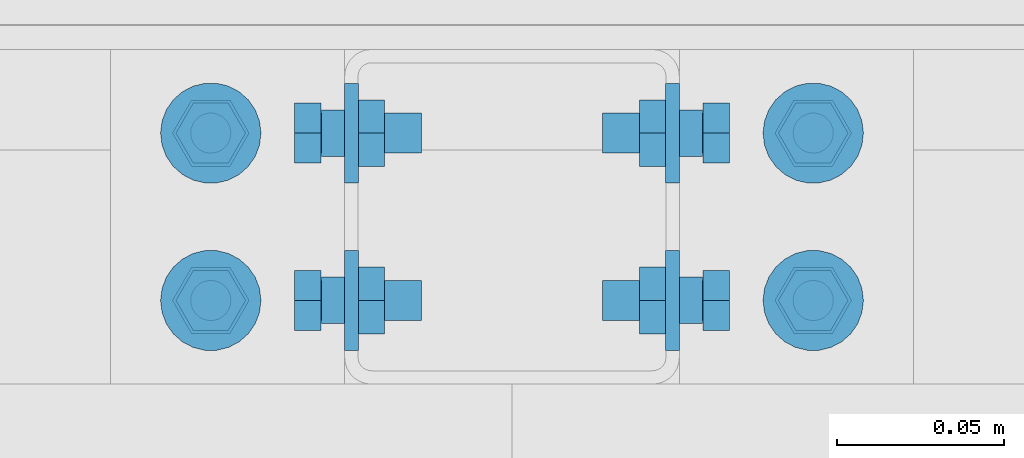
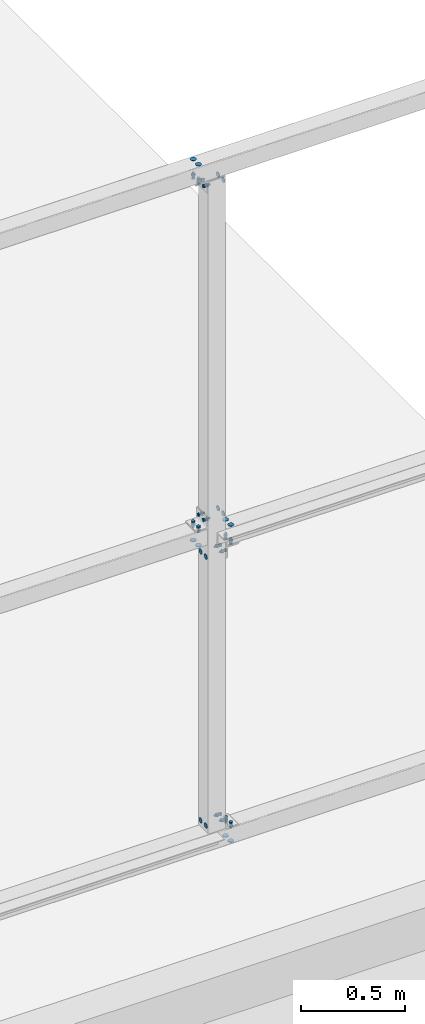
# One storey, part 313 of 362: 16 mechanical fasteners.
"""IFC2X3 building model written with IfcOpenShell, lengths in millimetres."""

from ifc_helpers import new_model, si_unit, frame, origin_with_axes, origin_2d_with_axis, place, context, subcontext, project, spatial, polyline, circle, outline, extrude, source, transform, mapped, material, type_object, element, save


model = new_model("IFC2X3")

# Units and contexts
model_context = context("Model", 3, precision=1e-05, world=origin_with_axes())
body_context = subcontext(model_context, "Body", "Model", "MODEL_VIEW")
ifc_project = project(units=[si_unit("LENGTHUNIT", "METRE", prefix="MILLI"), si_unit("AREAUNIT", "SQUARE_METRE"), si_unit("VOLUMEUNIT", "CUBIC_METRE"), si_unit("MASSUNIT", "GRAM", prefix="KILO"), si_unit("TIMEUNIT", "SECOND"), si_unit("PLANEANGLEUNIT", "RADIAN"), si_unit("SOLIDANGLEUNIT", "STERADIAN"), si_unit("THERMODYNAMICTEMPERATUREUNIT", "DEGREE_CELSIUS"), si_unit("LUMINOUSINTENSITYUNIT", "LUMEN")], contexts=[model_context])

# Site, building, storey
site_placement = place(None, origin_with_axes())
site = spatial("IfcSite", under=ifc_project, at=site_placement, Name="Undefined", CompositionType="ELEMENT")
building_placement = place(site_placement, origin_with_axes())
building = spatial("IfcBuilding", under=site, at=building_placement, Name="Undefined", CompositionType="ELEMENT")
storey_placement = place(building_placement, origin_with_axes())
storey = spatial("IfcBuildingStorey", under=building, at=storey_placement, Name="Undefined", CompositionType="ELEMENT", Elevation=0.0)

# Mechanical fasteners
ifc_material_1 = material(Name="6.8")
mechanical_fastener_type = type_object("IfcMechanicalFastenerType", Name="Bolt assembly")
shared_shape_1 = source(origin_with_axes(), body_context, "Body", "SweptSolid", [
    extrude(circle(Radius=15.0, at=origin_2d_with_axis()), frame((0.0, 0.0, 0.0), z_axis=(0.0, 1.0, 0.0), x_axis=(1.0, 0.0, 0.0)), (0.0, 0.0, 1.0), 4.1),
])
mechanical_fastener_1_placement = place(storey_placement, frame((36395.0025831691, -130.000008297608, 1140.0), z_axis=(0.0, -1.0, 0.0), x_axis=(0.0, 0.0, -1.0)))
element("IfcMechanicalFastener", 1, at=mechanical_fastener_1_placement, inside=storey, type_object=mechanical_fastener_type, material=ifc_material_1, Name="Bolt assembly", NominalDiameter=30.0, NominalLength=4.0, context=body_context, shape_type="MappedRepresentation", body=[
    mapped(shared_shape_1, transform((0.0, 0.0, 25.0))),
    mapped(shared_shape_1, transform((0.0, 0.0, -25.0))),
])
for number, where, z_axis, x_axis, name in (
    (2, (36395.0025836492, -130.000008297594, 2720.0), (0.0, 1.0, 0.0), (0.0, 0.0, 1.0), "Bolt assembly"),
    (3, (36495.0025832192, -130.000008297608, 2940.0), (0.0, 1.0, 0.0), (0.0, 0.0, -1.0), "Bolt assembly"),
):
    element("IfcMechanicalFastener", number, at=place(storey_placement, frame(where, z_axis=z_axis, x_axis=x_axis)), inside=storey, type_object=mechanical_fastener_type, material=ifc_material_1, Name=name, NominalDiameter=30.0, NominalLength=4.0, context=body_context, shape_type="MappedRepresentation", body=[
        mapped(shared_shape_1, transform((0.0, 0.0, -25.0))),
        mapped(shared_shape_1, transform((0.0, 0.0, 25.0))),
    ])
mechanical_fastener_2_placement = place(storey_placement, frame((36495.0025826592, -130.000008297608, 4900.0), z_axis=(0.0, -1.0, 0.0), x_axis=(0.0, 0.0, 1.0)))
element("IfcMechanicalFastener", 4, at=mechanical_fastener_2_placement, inside=storey, type_object=mechanical_fastener_type, material=ifc_material_1, Name="Bolt assembly", NominalDiameter=30.0, NominalLength=4.0, context=body_context, shape_type="MappedRepresentation", body=[
    mapped(shared_shape_1, transform((0.0, 0.0, 25.0))),
    mapped(shared_shape_1, transform((0.0, 0.0, -25.0))),
])
ifc_material_2 = material(Name="8.8-SB-ZINGUE")
shared_shape_2 = source(origin_with_axes(), body_context, "Body", "SweptSolid", [
    extrude(circle(Radius=7.0, at=origin_2d_with_axis()), frame((0.0, -0.101674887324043, 0.0), z_axis=(0.0, 1.0, 0.0), x_axis=(1.0, 0.0, 0.0)), (0.0, 0.0, 1.0), 4.1),
    extrude(circle(Radius=7.0, at=origin_2d_with_axis()), frame((0.0, -6.90167467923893, 0.0), z_axis=(0.0, 1.0, 0.0), x_axis=(1.0, 0.0, 0.0)), (0.0, 0.0, 1.0), 7.0),
    extrude(outline(polyline([(10.39230484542, 0.0), (5.19615242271, 9.00000000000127), (-5.19615242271, 9.00000000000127), (-10.39230484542, 0.0), (-5.19615242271, -9.00000000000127), (5.19615242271, -9.00000000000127), (10.39230484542, 0.0)])), frame((0.0, -14.9216746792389, 0.0), z_axis=(0.0, 1.0, 0.0), x_axis=(1.0, 0.0, 0.0)), (0.0, 0.0, 1.0), 7.92),
    extrude(circle(Radius=6.0, at=origin_2d_with_axis()), frame((0.0, -7.00167467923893, 0.0), z_axis=(0.0, 1.0, 0.0), x_axis=(1.0, 0.0, 0.0)), (0.0, 0.0, 1.0), 30.0),
    extrude(outline(polyline([(11.5008173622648, 0.0), (5.7504086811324, 9.96000000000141), (-5.7504086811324, 9.96000000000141), (-11.5008173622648, 0.0), (-5.7504086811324, -9.96000000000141), (5.7504086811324, -9.96000000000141), (11.5008173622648, 0.0)])), frame((0.0, 3.99832511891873, 0.0), z_axis=(0.0, 1.0, 0.0), x_axis=(1.0, 0.0, 0.0)), (0.0, 0.0, 1.0), 7.92),
])
mechanical_fastener_3_placement = place(storey_placement, frame((36495.0009082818, -130.000006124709, 1140.00000004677), z_axis=(0.0, 1.0, 0.0), x_axis=(-5.58310001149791e-05, -3.00000033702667e-09, -0.99999999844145)))
element("IfcMechanicalFastener", 5, at=mechanical_fastener_3_placement, inside=storey, type_object=mechanical_fastener_type, material=ifc_material_2, Name="Bolt assembly", NominalDiameter=12.0, NominalLength=30.0, context=body_context, shape_type="MappedRepresentation", body=[
    mapped(shared_shape_2, transform((0.0, 0.0, 25.0))),
    mapped(shared_shape_2, transform((0.0, 0.0, -25.0))),
])
for number, where, z_axis, x_axis, name in (
    (6, (36495.0009087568, -130.000006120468, 2719.99999995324), (0.0, -1.0, 0.0), (-5.58310001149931e-05, -3.00000033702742e-09, 0.99999999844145), "Bolt assembly"),
    (7, (36395.0042581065, -130.000006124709, 2940.00000004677), (0.0, -1.0, 0.0), (5.58310000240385e-05, -3.00000033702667e-09, -0.99999999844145), "Bolt assembly"),
):
    element("IfcMechanicalFastener", number, at=place(storey_placement, frame(where, z_axis=z_axis, x_axis=x_axis)), inside=storey, type_object=mechanical_fastener_type, material=ifc_material_2, Name=name, NominalDiameter=12.0, NominalLength=30.0, context=body_context, shape_type="MappedRepresentation", body=[
        mapped(shared_shape_2, transform((0.0, 0.0, -25.0))),
        mapped(shared_shape_2, transform((0.0, 0.0, 25.0))),
    ])
mechanical_fastener_4_placement = place(storey_placement, frame((36395.0042575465, -130.000006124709, 4899.99999995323), z_axis=(0.0, 1.0, 0.0), x_axis=(5.58310000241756e-05, -2.99999998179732e-09, 0.99999999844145)))
element("IfcMechanicalFastener", 8, at=mechanical_fastener_4_placement, inside=storey, type_object=mechanical_fastener_type, material=ifc_material_2, Name="Bolt assembly", NominalDiameter=12.0, NominalLength=30.0, context=body_context, shape_type="MappedRepresentation", body=[
    mapped(shared_shape_2, transform((0.0, 0.0, 25.0))),
    mapped(shared_shape_2, transform((0.0, 0.0, -25.0))),
])
shared_shape_3 = source(origin_with_axes(), body_context, "Body", "SweptSolid", [
    extrude(circle(Radius=15.0, at=origin_2d_with_axis()), frame((0.0, -3.99999923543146, 0.0), z_axis=(0.0, 1.0, 0.0), x_axis=(1.0, 0.0, 0.0)), (0.0, 0.0, 1.0), 4.1),
])
mechanical_fastener_5_placement = place(storey_placement, frame((36535.0025831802, -130.000008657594, 2860.0), z_axis=(0.0, 1.0, 0.0), x_axis=(-1.0, 0.0, 0.0)))
element("IfcMechanicalFastener", 9, at=mechanical_fastener_5_placement, inside=storey, type_object=mechanical_fastener_type, material=ifc_material_1, Name="Bolt assembly", NominalDiameter=30.0, NominalLength=4.0, context=body_context, shape_type="MappedRepresentation", body=[
    mapped(shared_shape_3, transform((0.0, 0.0, -25.0))),
    mapped(shared_shape_3, transform((0.0, 0.0, 25.0))),
])
mechanical_fastener_6_placement = place(storey_placement, frame((36535.0025827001, -130.000008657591, 1000.0), z_axis=(0.0, -1.0, 0.0), x_axis=(-1.0, 0.0, 0.0)))
element("IfcMechanicalFastener", 10, at=mechanical_fastener_6_placement, inside=storey, type_object=mechanical_fastener_type, material=ifc_material_1, Name="Bolt assembly", NominalDiameter=30.0, NominalLength=4.0, context=body_context, shape_type="MappedRepresentation", body=[
    mapped(shared_shape_3, transform((0.0, 0.0, 25.0))),
    mapped(shared_shape_3, transform((0.0, 0.0, -25.0))),
])
mechanical_fastener_7_placement = place(storey_placement, frame((36355.0025836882, -130.000008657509, 2800.0), z_axis=(0.0, 1.0, 0.0), x_axis=(1.0, 0.0, 0.0)))
element("IfcMechanicalFastener", 11, at=mechanical_fastener_7_placement, inside=storey, type_object=mechanical_fastener_type, material=ifc_material_1, Name="Bolt assembly", NominalDiameter=30.0, NominalLength=4.0, context=body_context, shape_type="MappedRepresentation", body=[
    mapped(shared_shape_3, transform((0.0, 0.0, -25.0))),
    mapped(shared_shape_3, transform((0.0, 0.0, 25.0))),
])
mechanical_fastener_8_placement = place(storey_placement, frame((36355.0025831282, -130.000008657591, 5040.0), z_axis=(0.0, -1.0, 0.0), x_axis=(1.0, 0.0, 0.0)))
element("IfcMechanicalFastener", 12, at=mechanical_fastener_8_placement, inside=storey, type_object=mechanical_fastener_type, material=ifc_material_1, Name="Bolt assembly", NominalDiameter=30.0, NominalLength=4.0, context=body_context, shape_type="MappedRepresentation", body=[
    mapped(shared_shape_3, transform((0.0, 0.0, 25.0))),
    mapped(shared_shape_3, transform((0.0, 0.0, -25.0))),
])
shared_shape_4 = source(origin_with_axes(), body_context, "Body", "SweptSolid", [
    extrude(circle(Radius=7.0, at=origin_2d_with_axis()), frame((0.0, -0.100011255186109, 0.0), z_axis=(0.0, 1.0, 0.0), x_axis=(1.0, 0.0, 0.0)), (0.0, 0.0, 1.0), 4.1),
    extrude(circle(Radius=7.0, at=origin_2d_with_axis()), frame((0.0, -6.9, 0.0), z_axis=(0.0, 1.0, 0.0), x_axis=(1.0, 0.0, 0.0)), (0.0, 0.0, 1.0), 7.0),
    extrude(outline(polyline([(10.39230484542, 0.0), (5.19615242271, 9.00000000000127), (-5.19615242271, 9.00000000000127), (-10.39230484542, 0.0), (-5.19615242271, -9.00000000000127), (5.19615242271, -9.00000000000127), (10.39230484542, 0.0)])), frame((0.0, -14.92, 0.0), z_axis=(0.0, 1.0, 0.0), x_axis=(1.0, 0.0, 0.0)), (0.0, 0.0, 1.0), 7.92),
    extrude(circle(Radius=6.0, at=origin_2d_with_axis()), frame((0.0, -7.0, 0.0), z_axis=(0.0, 1.0, 0.0), x_axis=(1.0, 0.0, 0.0)), (0.0, 0.0, 1.0), 30.0),
    extrude(outline(polyline([(11.5008173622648, 0.0), (5.7504086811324, 9.96000000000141), (-5.7504086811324, 9.96000000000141), (-11.5008173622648, 0.0), (-5.7504086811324, -9.96000000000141), (5.7504086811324, -9.96000000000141), (11.5008173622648, 0.0)])), frame((0.0, 4.00000005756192, 0.0), z_axis=(0.0, 1.0, 0.0), x_axis=(1.0, 0.0, 0.0)), (0.0, 0.0, 1.0), 7.92),
])
mechanical_fastener_9_placement = place(storey_placement, frame((36535.0025836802, -130.00000787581, 2760.0), z_axis=(0.0, 1.0, 0.0), x_axis=(-1.0, 0.0, 0.0)))
element("IfcMechanicalFastener", 13, at=mechanical_fastener_9_placement, inside=storey, type_object=mechanical_fastener_type, material=ifc_material_2, Name="Bolt assembly", NominalDiameter=12.0, NominalLength=30.0, context=body_context, shape_type="MappedRepresentation", body=[
    mapped(shared_shape_4, transform((0.0, 0.0, -25.0))),
    mapped(shared_shape_4, transform((0.0, 0.0, 25.0))),
])
mechanical_fastener_10_placement = place(storey_placement, frame((36535.0025832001, -130.000007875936, 1100.0), z_axis=(0.0, -1.0, 0.0), x_axis=(-1.0, 0.0, 0.0)))
element("IfcMechanicalFastener", 14, at=mechanical_fastener_10_placement, inside=storey, type_object=mechanical_fastener_type, material=ifc_material_2, Name="Bolt assembly", NominalDiameter=12.0, NominalLength=30.0, context=body_context, shape_type="MappedRepresentation", body=[
    mapped(shared_shape_4, transform((0.0, 0.0, 25.0))),
    mapped(shared_shape_4, transform((0.0, 0.0, -25.0))),
])
mechanical_fastener_11_placement = place(storey_placement, frame((36355.0025831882, -130.000007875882, 2900.0), z_axis=(0.0, 1.0, 0.0), x_axis=(1.0, 0.0, 0.0)))
element("IfcMechanicalFastener", 15, at=mechanical_fastener_11_placement, inside=storey, type_object=mechanical_fastener_type, material=ifc_material_2, Name="Bolt assembly", NominalDiameter=12.0, NominalLength=30.0, context=body_context, shape_type="MappedRepresentation", body=[
    mapped(shared_shape_4, transform((0.0, 0.0, -25.0))),
    mapped(shared_shape_4, transform((0.0, 0.0, 25.0))),
])
mechanical_fastener_12_placement = place(storey_placement, frame((36355.0025826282, -130.000007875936, 4940.0), z_axis=(0.0, -1.0, 0.0), x_axis=(1.0, 0.0, 0.0)))
element("IfcMechanicalFastener", 16, at=mechanical_fastener_12_placement, inside=storey, type_object=mechanical_fastener_type, material=ifc_material_2, Name="Bolt assembly", NominalDiameter=12.0, NominalLength=30.0, context=body_context, shape_type="MappedRepresentation", body=[
    mapped(shared_shape_4, transform((0.0, 0.0, 25.0))),
    mapped(shared_shape_4, transform((0.0, 0.0, -25.0))),
])

save(model, "model.ifc")
